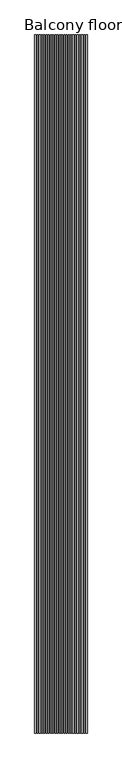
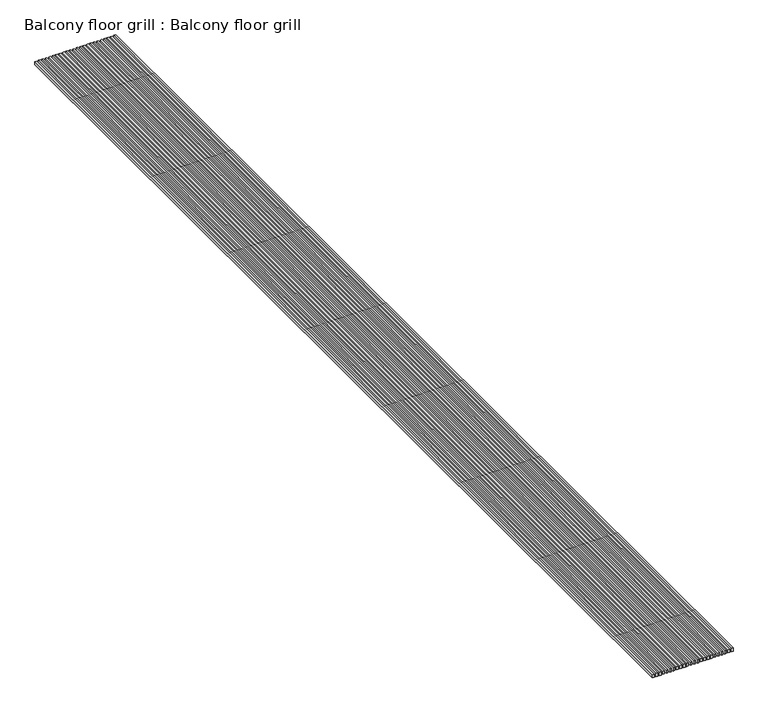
"""IFC4 building model written with IfcOpenShell, lengths in millimetres: proxy geometry, Balcony floor grill : Balcony floor grill."""

from ifc_helpers import new_model, si_unit, frame, origin, place, context, project, spatial, polyline, outline, extrude, source, transform, mapped, element, save


def balcony_floor_grill_balcony_floor_grill_0aae0050(model_context):
    return source(origin(), model_context, "Body", "SweptSolid", [
        extrude(outline(polyline([(25.4, -15836.9), (0.0, -15836.9), (0.0, 0.0), (25.4, 0.0), (25.4, -15836.9)])), frame((0.0, 0.0, -50.8), z_axis=(0.0, 0.0, 1.0), x_axis=(1.0, 0.0, 0.0)), (0.0, 0.0, 1.0), 50.8),
        extrude(outline(polyline([(76.2, -15836.9), (50.8, -15836.9), (50.8, 0.0), (76.2, 0.0), (76.2, -15836.9)])), frame((0.0, 0.0, -50.8), z_axis=(0.0, 0.0, 1.0), x_axis=(1.0, 0.0, 0.0)), (0.0, 0.0, 1.0), 50.8),
        extrude(outline(polyline([(127.0, -15836.9), (101.6, -15836.9), (101.6, 0.0), (127.0, 0.0), (127.0, -15836.9)])), frame((0.0, 0.0, -50.8), z_axis=(0.0, 0.0, 1.0), x_axis=(1.0, 0.0, 0.0)), (0.0, 0.0, 1.0), 50.8),
        extrude(outline(polyline([(177.8, -15836.9), (152.4, -15836.9), (152.4, 0.0), (177.8, 0.0), (177.8, -15836.9)])), frame((0.0, 0.0, -50.8), z_axis=(0.0, 0.0, 1.0), x_axis=(1.0, 0.0, 0.0)), (0.0, 0.0, 1.0), 50.8),
        extrude(outline(polyline([(228.6, -15836.9), (203.2, -15836.9), (203.2, 0.0), (228.6, 0.0), (228.6, -15836.9)])), frame((0.0, 0.0, -50.8), z_axis=(0.0, 0.0, 1.0), x_axis=(1.0, 0.0, 0.0)), (0.0, 0.0, 1.0), 50.8),
        extrude(outline(polyline([(279.4, -15836.9), (254.0, -15836.9), (254.0, 0.0), (279.4, 0.0), (279.4, -15836.9)])), frame((0.0, 0.0, -50.8), z_axis=(0.0, 0.0, 1.0), x_axis=(1.0, 0.0, 0.0)), (0.0, 0.0, 1.0), 50.8),
        extrude(outline(polyline([(330.2, -15836.9), (304.8, -15836.9), (304.8, 0.0), (330.2, 0.0), (330.2, -15836.9)])), frame((0.0, 0.0, -50.8), z_axis=(0.0, 0.0, 1.0), x_axis=(1.0, 0.0, 0.0)), (0.0, 0.0, 1.0), 50.8),
        extrude(outline(polyline([(381.0, -15836.9), (355.6, -15836.9), (355.6, 0.0), (381.0, 0.0), (381.0, -15836.9)])), frame((0.0, 0.0, -50.8), z_axis=(0.0, 0.0, 1.0), x_axis=(1.0, 0.0, 0.0)), (0.0, 0.0, 1.0), 50.8),
        extrude(outline(polyline([(431.8, -15836.9), (406.4, -15836.9), (406.4, 0.0), (431.8, 0.0), (431.8, -15836.9)])), frame((0.0, 0.0, -50.8), z_axis=(0.0, 0.0, 1.0), x_axis=(1.0, 0.0, 0.0)), (0.0, 0.0, 1.0), 50.8),
        extrude(outline(polyline([(482.6, -15836.9), (457.2, -15836.9), (457.2, 0.0), (482.6, 0.0), (482.6, -15836.9)])), frame((0.0, 0.0, -50.8), z_axis=(0.0, 0.0, 1.0), x_axis=(1.0, 0.0, 0.0)), (0.0, 0.0, 1.0), 50.8),
        extrude(outline(polyline([(533.4, -15836.9), (508.0, -15836.9), (508.0, 0.0), (533.4, 0.0), (533.4, -15836.9)])), frame((0.0, 0.0, -50.8), z_axis=(0.0, 0.0, 1.0), x_axis=(1.0, 0.0, 0.0)), (0.0, 0.0, 1.0), 50.8),
        extrude(outline(polyline([(584.2, -15836.9), (558.8, -15836.9), (558.8, 0.0), (584.2, 0.0), (584.2, -15836.9)])), frame((0.0, 0.0, -50.8), z_axis=(0.0, 0.0, 1.0), x_axis=(1.0, 0.0, 0.0)), (0.0, 0.0, 1.0), 50.8),
        extrude(outline(polyline([(635.0, -15836.9), (609.6, -15836.9), (609.6, 0.0), (635.0, 0.0), (635.0, -15836.9)])), frame((0.0, 0.0, -50.8), z_axis=(0.0, 0.0, 1.0), x_axis=(1.0, 0.0, 0.0)), (0.0, 0.0, 1.0), 50.8),
        extrude(outline(polyline([(685.8, -15836.9), (660.4, -15836.9), (660.4, 0.0), (685.8, 0.0), (685.8, -15836.9)])), frame((0.0, 0.0, -50.8), z_axis=(0.0, 0.0, 1.0), x_axis=(1.0, 0.0, 0.0)), (0.0, 0.0, 1.0), 50.8),
        extrude(outline(polyline([(736.6, -15836.9), (711.2, -15836.9), (711.2, 0.0), (736.6, 0.0), (736.6, -15836.9)])), frame((0.0, 0.0, -50.8), z_axis=(0.0, 0.0, 1.0), x_axis=(1.0, 0.0, 0.0)), (0.0, 0.0, 1.0), 50.8),
        extrude(outline(polyline([(787.4, -15836.9), (762.0, -15836.9), (762.0, 0.0), (787.4, 0.0), (787.4, -15836.9)])), frame((0.0, 0.0, -50.8), z_axis=(0.0, 0.0, 1.0), x_axis=(1.0, 0.0, 0.0)), (0.0, 0.0, 1.0), 50.8),
        extrude(outline(polyline([(838.2, -15836.9), (812.8, -15836.9), (812.8, 0.0), (838.2, 0.0), (838.2, -15836.9)])), frame((0.0, 0.0, -50.8), z_axis=(0.0, 0.0, 1.0), x_axis=(1.0, 0.0, 0.0)), (0.0, 0.0, 1.0), 50.8),
        extrude(outline(polyline([(889.0, -15836.9), (863.6, -15836.9), (863.6, 0.0), (889.0, 0.0), (889.0, -15836.9)])), frame((0.0, 0.0, -50.8), z_axis=(0.0, 0.0, 1.0), x_axis=(1.0, 0.0, 0.0)), (0.0, 0.0, 1.0), 50.8),
        extrude(outline(polyline([(939.8, -15836.9), (914.4, -15836.9), (914.4, 0.0), (939.8, 0.0), (939.8, -15836.9)])), frame((0.0, 0.0, -50.8), z_axis=(0.0, 0.0, 1.0), x_axis=(1.0, 0.0, 0.0)), (0.0, 0.0, 1.0), 50.8),
        extrude(outline(polyline([(990.6, -15836.9), (965.2, -15836.9), (965.2, 0.0), (990.6, 0.0), (990.6, -15836.9)])), frame((0.0, 0.0, -50.8), z_axis=(0.0, 0.0, 1.0), x_axis=(1.0, 0.0, 0.0)), (0.0, 0.0, 1.0), 50.8),
        extrude(outline(polyline([(1041.4, -15836.9), (1016.0, -15836.9), (1016.0, 0.0), (1041.4, 0.0), (1041.4, -15836.9)])), frame((0.0, 0.0, -50.8), z_axis=(0.0, 0.0, 1.0), x_axis=(1.0, 0.0, 0.0)), (0.0, 0.0, 1.0), 50.8),
        extrude(outline(polyline([(1092.2, -15836.9), (1066.8, -15836.9), (1066.8, 0.0), (1092.2, 0.0), (1092.2, -15836.9)])), frame((0.0, 0.0, -50.8), z_axis=(0.0, 0.0, 1.0), x_axis=(1.0, 0.0, 0.0)), (0.0, 0.0, 1.0), 50.8),
        extrude(outline(polyline([(1143.0, -15836.9), (1117.6, -15836.9), (1117.6, 0.0), (1143.0, 0.0), (1143.0, -15836.9)])), frame((0.0, 0.0, -50.8), z_axis=(0.0, 0.0, 1.0), x_axis=(1.0, 0.0, 0.0)), (0.0, 0.0, 1.0), 50.8),
        extrude(outline(polyline([(1193.8, -15836.9), (1168.4, -15836.9), (1168.4, 0.0), (1193.8, 0.0), (1193.8, -15836.9)])), frame((0.0, 0.0, -50.8), z_axis=(0.0, 0.0, 1.0), x_axis=(1.0, 0.0, 0.0)), (0.0, 0.0, 1.0), 50.8),
    ])


if __name__ == "__main__":
    model = new_model("IFC4")
    model_context = context("Model", 3, world=origin())
    ifc_project = project(units=[si_unit("LENGTHUNIT", "METRE", prefix="MILLI")], contexts=[model_context])
    site = spatial("IfcSite", under=ifc_project)
    building = spatial("IfcBuilding", under=site)
    placement = place(None, origin())
    balcony_floor_grill_balcony_floor_grill_shape = balcony_floor_grill_balcony_floor_grill_0aae0050(model_context)
    element("IfcBuildingElementProxy", 1, Name="Balcony floor grill : Balcony floor grill", ObjectType="Balcony floor grill : Balcony floor grill", at=placement, inside=building, context=model_context, shape_type="MappedRepresentation", body=[
        mapped(balcony_floor_grill_balcony_floor_grill_shape, transform((0.0, 0.0, 0.0), x_axis=(1.0, 0.0, 0.0), y_axis=(0.0, 1.0, 0.0), z_axis=(0.0, 0.0, 1.0))),
    ])
    save(model, "model.ifc")
